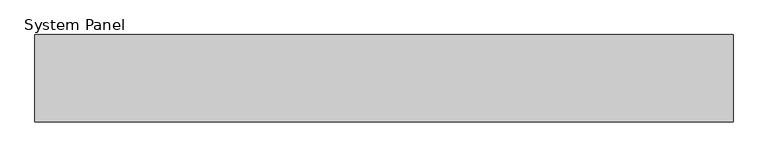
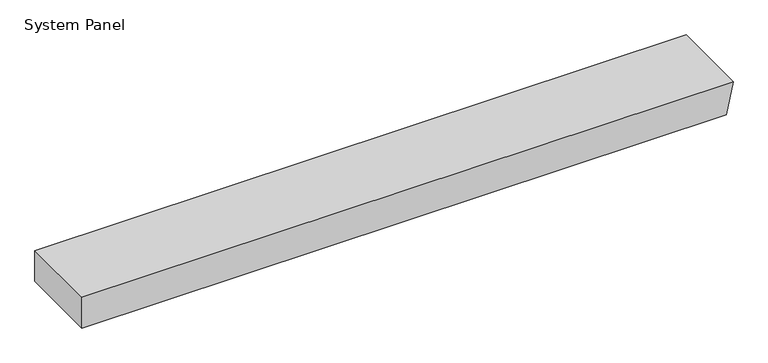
"""IFC4 building model written with IfcOpenShell, lengths in millimetres: plate geometry, System Panel : Equitilt 200mm Horizontal - Plain RHEA - EPS-FR."""

from ifc_helpers import new_model, si_unit, frame, origin, place, context, project, spatial, polyline, outline, extrude, source, transform, mapped, element, save


def system_panel_212c07fe(model_context):
    return source(origin(), model_context, "Body", "SweptSolid", [
        extrude(outline(polyline([(0.0, -800.0), (0.0, 782.6149856), (79.9704237, 800.0), (79.9704237, -800.0), (0.0, -800.0)])), frame((0.0, -200.0, 0.0), z_axis=(0.0, 1.0, 0.0), x_axis=(0.0, 0.0, 1.0)), (0.0, 0.0, 1.0), 200.0),
    ])


if __name__ == "__main__":
    model = new_model("IFC4")
    model_context = context("Model", 3, world=origin())
    ifc_project = project(units=[si_unit("LENGTHUNIT", "METRE", prefix="MILLI")], contexts=[model_context])
    site = spatial("IfcSite", under=ifc_project)
    building = spatial("IfcBuilding", under=site)
    placement = place(None, origin())
    system_panel_shape = system_panel_212c07fe(model_context)
    element("IfcPlate", 1, ObjectType="System Panel : Equitilt 200mm Horizontal - Plain RHEA - EPS-FR", at=placement, inside=building, context=model_context, shape_type="MappedRepresentation", body=[
        mapped(system_panel_shape, transform((0.0, 0.0, 0.0), x_axis=(1.0, 0.0, 0.0), y_axis=(0.0, 1.0, 0.0), z_axis=(0.0, 0.0, 1.0))),
    ])
    save(model, "model.ifc")
